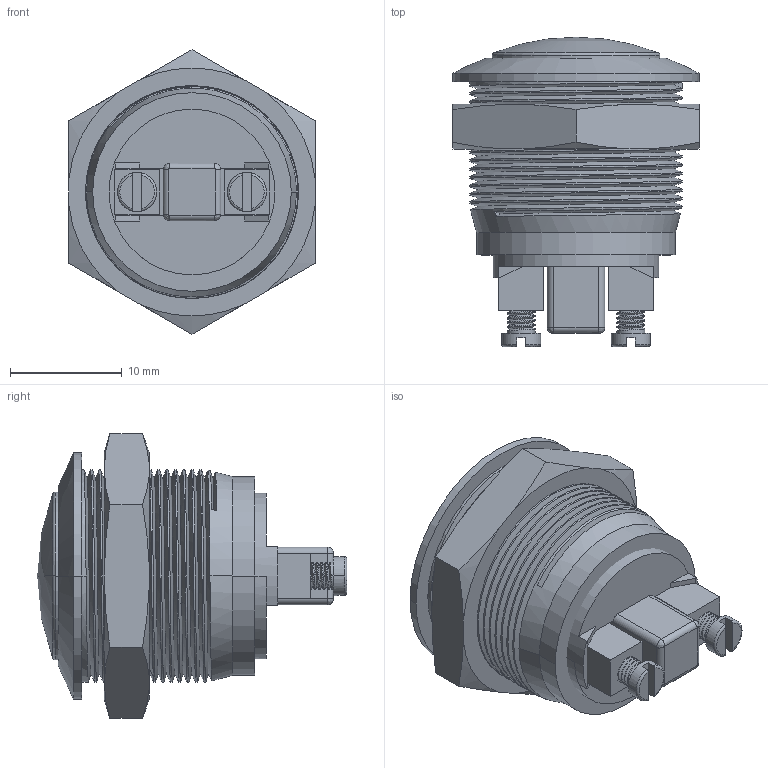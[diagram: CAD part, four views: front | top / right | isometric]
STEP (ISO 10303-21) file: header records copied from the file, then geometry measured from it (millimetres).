
FILE_DESCRIPTION((''),'2;1');
FILE_NAME('AV191003C900_SW0001','2019-12-09T',('vdelort'),(''),'CREO PARAMETRIC BY PTC INC, 2015380','CREO PARAMETRIC BY PTC INC, 2015380','');
FILE_SCHEMA(('CONFIG_CONTROL_DESIGN'));
Length unit declared in the file: millimetre
Products named in the file (1): AV191003C900_SW0001
Bounding box: 22 x 27.65 x 25.4 mm (x, y, z)
Surface area: 4826.6 mm2 (no closed solid volume)
Topology: 0 solids, 11 shells, 163 faces, 473 edges, 318 vertices
Faces by surface type: cylinder 62, plane 58, bspline 21, cone 14, torus 6, sphere 2
Entity records: 14281 total; most frequent: CARTESIAN_POINT 10325, ORIENTED_EDGE 869, DIRECTION 684, EDGE_CURVE 471, VERTEX_POINT 318, AXIS2_PLACEMENT_3D 240, VECTOR 204, LINE 204
